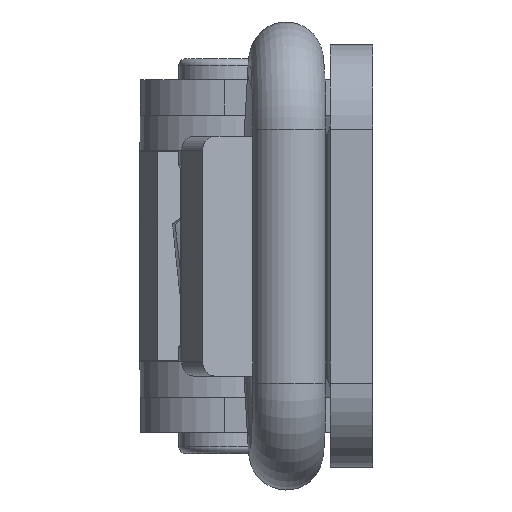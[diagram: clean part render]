
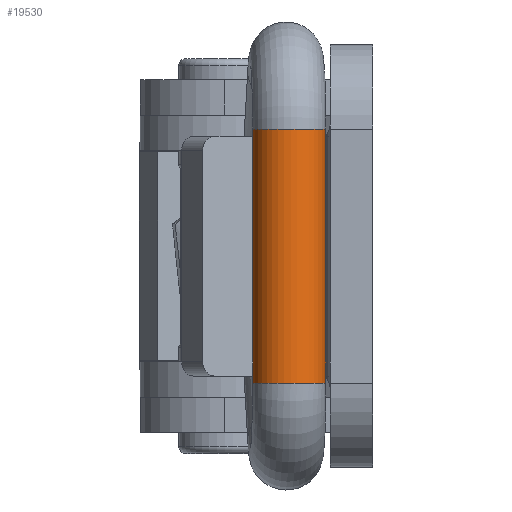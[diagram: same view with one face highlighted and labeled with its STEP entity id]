
A CAD part, left-side view. The second image highlights one B-rep face of the part: STEP entity #19530.
In plain terms, the highlighted cylindrical face has radius 2.6 mm (diameter 5.2 mm), a full revolution.
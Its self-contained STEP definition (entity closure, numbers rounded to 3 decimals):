
#765 = CYLINDRICAL_SURFACE ( 'NONE', #16683, 2.6 ) ;
#3550 = ORIENTED_EDGE ( 'NONE', *, *, #10415, .F. ) ;
#3907 = FACE_OUTER_BOUND ( 'NONE', #6754, .T. ) ;
#4210 = VERTEX_POINT ( 'NONE', #10808 ) ;
#5855 = CARTESIAN_POINT ( 'NONE',  ( -25., 0., 9. ) ) ;
#5910 = CIRCLE ( 'NONE', #18011, 2.6 ) ;
#6029 = EDGE_LOOP ( 'NONE', ( #3550 ) ) ;
#6754 = EDGE_LOOP ( 'NONE', ( #15622 ) ) ;
#7371 = DIRECTION ( 'NONE',  ( -1., 0., 0. ) ) ;
#10415 = EDGE_CURVE ( 'NONE', #10594, #10594, #21209, .T. ) ;
#10504 = FACE_OUTER_BOUND ( 'NONE', #6029, .T. ) ;
#10594 = VERTEX_POINT ( 'NONE', #15260 ) ;
#10808 = CARTESIAN_POINT ( 'NONE',  ( -22.4, 0., -9. ) ) ;
#11067 = DIRECTION ( 'NONE',  ( 1., 0., 0. ) ) ;
#12134 = DIRECTION ( 'NONE',  ( 0., 0., -1. ) ) ;
#12694 = CARTESIAN_POINT ( 'NONE',  ( -25., 0., 9. ) ) ;
#14234 = EDGE_CURVE ( 'NONE', #4210, #4210, #5910, .T. ) ;
#14747 = DIRECTION ( 'NONE',  ( 0., 0., 1. ) ) ;
#15260 = CARTESIAN_POINT ( 'NONE',  ( -22.4, 0., 9. ) ) ;
#15622 = ORIENTED_EDGE ( 'NONE', *, *, #14234, .T. ) ;
#16683 = AXIS2_PLACEMENT_3D ( 'NONE', #5855, #12134, #7371 ) ;
#18011 = AXIS2_PLACEMENT_3D ( 'NONE', #18288, #14747, #19809 ) ;
#18288 = CARTESIAN_POINT ( 'NONE',  ( -25., 0., -9. ) ) ;
#19488 = DIRECTION ( 'NONE',  ( 0., 0., 1. ) ) ;
#19530 = ADVANCED_FACE ( 'NONE', ( #3907, #10504 ), #765, .T. ) ;
#19809 = DIRECTION ( 'NONE',  ( 1., 0., 0. ) ) ;
#20516 = AXIS2_PLACEMENT_3D ( 'NONE', #12694, #19488, #11067 ) ;
#21209 = CIRCLE ( 'NONE', #20516, 2.6 ) ;
